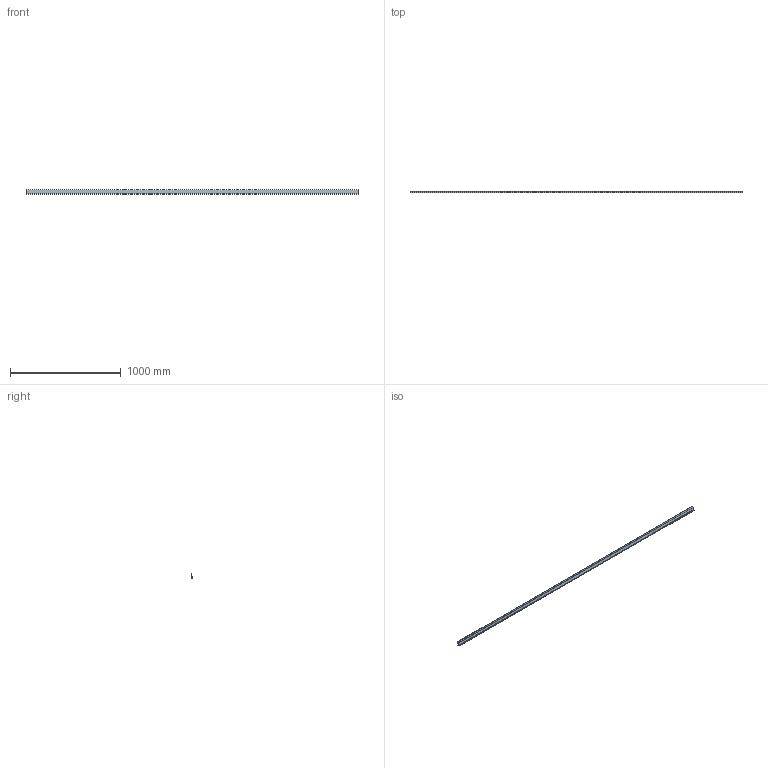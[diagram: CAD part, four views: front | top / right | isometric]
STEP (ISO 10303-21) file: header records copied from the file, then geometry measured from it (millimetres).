
FILE_DESCRIPTION (( 'STEP AP214' ), '1' );
FILE_NAME ('FABER - FCRP 3.STEP', '2017-04-06T07:34:29', ( '' ), ( '' ), 'SwSTEP 2.0', 'SolidWorks 2016', '' );
FILE_SCHEMA (( 'AUTOMOTIVE_DESIGN' ));
Length unit declared in the file: millimetre
Products named in the file (1): FABER - FCRP 3
Bounding box: 3000 x 18 x 40 mm (x, y, z)
Volume: 578794.1 mm3; surface area: 495628.4 mm2
Topology: 1 solids, 1 shells, 28 faces, 78 edges, 52 vertices
Faces by surface type: cylinder 15, plane 13
Entity records: 950 total; most frequent: DIRECTION 166, CARTESIAN_POINT 159, ORIENTED_EDGE 156, EDGE_CURVE 78, AXIS2_PLACEMENT_3D 59, VERTEX_POINT 52, LINE 48, VECTOR 48
